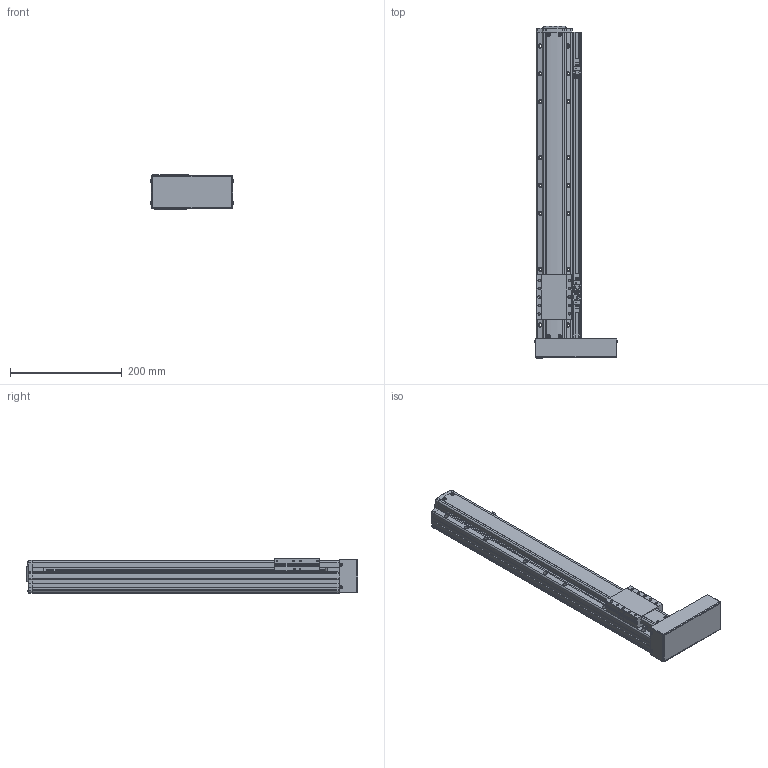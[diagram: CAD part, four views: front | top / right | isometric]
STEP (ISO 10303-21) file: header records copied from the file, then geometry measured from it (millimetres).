
FILE_DESCRIPTION(('STEP AP214'),'1');
FILE_NAME('Z:/Web/3D/PSA65/STP/PSA65-400 (3D)/PSA65ㅁㅁ-400PR+3SR.stp','2014-06-25T04:58:04',(' '),(' '),'Spatial InterOp 3D',' ',' ');
FILE_SCHEMA(('automotive_design'));
Length unit declared in the file: millimetre
Products named in the file (67): SLIDE; RRCV-PA060; 1; 2; 3; 4; 5; 6; 7; 8; 9; 10; 11; 12; 13; 14; 15; 16; 17; 18; 19; 20; 21; 22; 23; 24; 25; 26; 27; 28; 29; 30; 31; 스크루 : Round - M3.0 x 8.0; RN8 x 0.75; SHAFT-SAN65; BASE; 스크루 : Round - M3.0 x 6.0; BTCV-SAN65; BHCS M3 X 6L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
Bounding box: 149.13 x 594.8 x 62 mm (x, y, z)
Volume: 2067990.3 mm3; surface area: 339678.3 mm2
Topology: 67 solids, 67 shells, 2264 faces, 5967 edges, 3832 vertices
Faces by surface type: plane 1391, cylinder 589, cone 199, sphere 50, bspline 19, torus 16
Entity records: 89618 total; most frequent: CARTESIAN_POINT 13739, DIRECTION 12014, ORIENTED_EDGE 11682, EDGE_CURVE 5841, LINE 4120, VECTOR 4120, AXIS2_PLACEMENT_3D 3947, VERTEX_POINT 3832
